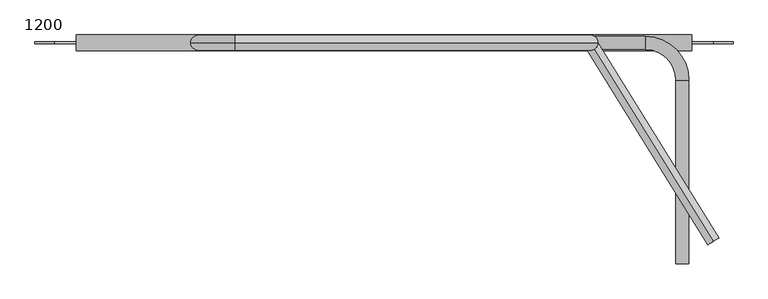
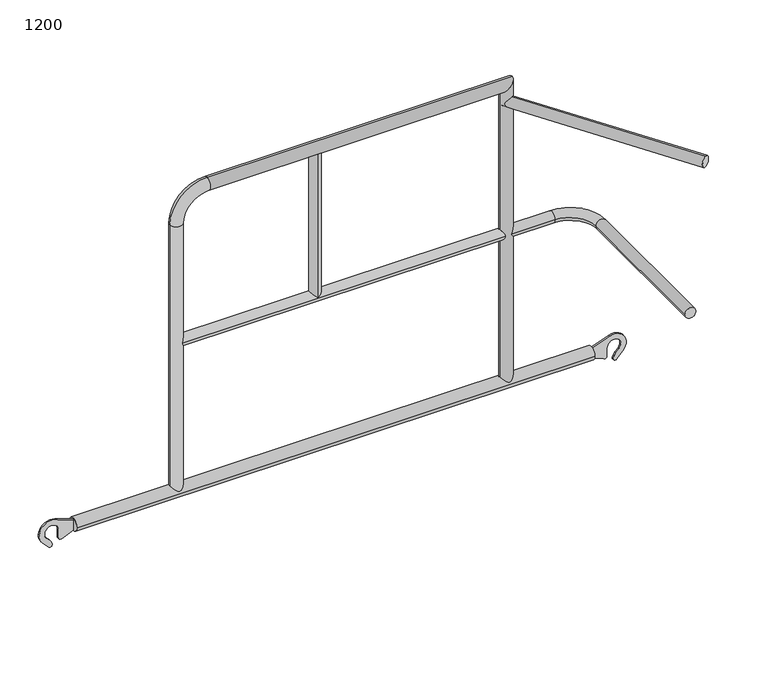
"""IFC4 building model written with IfcOpenShell, lengths in millimetres: proxy geometry, AK_アルミ階段開口部手摺枠_軽 : 1200."""

import ifcopenshell
import ifcopenshell.guid

model = None  # the IFC model being written
_history = None  # IfcOwnerHistory: only IFC2X3 demands one
_inside = {}  # id of a spatial element -> (the spatial element, [elements in it])
_under = {}  # id of a project, library or spatial element -> (it, [spatial elements below it])
_declared = {}  # id of a project -> (the project, [libraries it declares])
_typed = {}  # id of a type object -> (the type object, [elements of that type])
_made_of = {}  # id of a material, layer set ... -> (it, [elements and type objects made of it])


def new_model(schema):
    """Start an empty IFC model of exactly this schema.

    Asked for "IFC4X3", IfcOpenShell would pick the latest addendum, in which some entities
    have other attributes; the version numbers below select the first issue.
    IFC2X3 requires an IfcOwnerHistory on every rooted entity: one is made here for all.
    """
    global model, _history
    if schema == "IFC4X3":
        model = ifcopenshell.file(schema_version=(4, 3, 0, 0))
    else:
        model = ifcopenshell.file(schema=schema)
    _inside.clear()
    _under.clear()
    _declared.clear()
    _typed.clear()
    _made_of.clear()
    _history = None
    if model.schema == "IFC2X3":
        org = make("IfcOrganization", Name="unknown")
        user = make(
            "IfcPersonAndOrganization",
            ThePerson=make("IfcPerson", FamilyName="unknown"),
            TheOrganization=org,
        )
        app = make(
            "IfcApplication",
            ApplicationDeveloper=org,
            Version="unknown",
            ApplicationFullName="unknown",
            ApplicationIdentifier="unknown",
        )
        _history = make(
            "IfcOwnerHistory",
            OwningUser=user,
            OwningApplication=app,
            ChangeAction="ADDED",
            CreationDate=0,
        )
    return model


def make(cls, **values):
    """One entity of the class cls with the attributes given. An attribute that is None is left unset."""
    return model.create_entity(
        cls, **{name: value for name, value in values.items() if value is not None}
    )


def rooted(cls, **values):
    """An entity with a GlobalId (a new one), such as an element, a storey or a relation."""
    return make(cls, GlobalId=ifcopenshell.guid.new(), OwnerHistory=_history, **values)


def si_unit(unit_type, name, prefix=None):
    """IfcSIUnit, for example si_unit("LENGTHUNIT", "METRE", prefix="MILLI")."""
    return make("IfcSIUnit", UnitType=unit_type, Prefix=prefix, Name=name)


def assignment(units):
    """IfcUnitAssignment: the units of a project."""
    return None if units is None else make("IfcUnitAssignment", Units=units)


def point(xyz):
    """IfcCartesianPoint."""
    return None if xyz is None else make("IfcCartesianPoint", Coordinates=xyz)


def direction(xyz):
    """IfcDirection."""
    return None if xyz is None else make("IfcDirection", DirectionRatios=xyz)


def frame(location, z_axis=None, x_axis=None):
    """IfcAxis2Placement3D, a coordinate frame: its origin and axes. An axis left out is left unset."""
    return make(
        "IfcAxis2Placement3D",
        Location=point(location),
        Axis=direction(z_axis),
        RefDirection=direction(x_axis),
    )


def frame_2d(location, x_axis=None):
    """IfcAxis2Placement2D, a coordinate frame in the plane: its origin and x axis."""
    return make(
        "IfcAxis2Placement2D", Location=point(location), RefDirection=direction(x_axis)
    )


def origin():
    """The frame at (0, 0, 0) with its axes left unset."""
    return frame((0.0, 0.0, 0.0))


def place(relative_to, where):
    """IfcLocalPlacement: puts the frame where relative to a parent placement (None: the world)."""
    return make(
        "IfcLocalPlacement", PlacementRelTo=relative_to, RelativePlacement=where
    )


def context(
    kind, dimensions, precision=None, world=None, true_north=None, identifier=None
):
    """IfcGeometricRepresentationContext, for example the 3D "Model" context."""
    return make(
        "IfcGeometricRepresentationContext",
        ContextIdentifier=identifier,
        ContextType=kind,
        CoordinateSpaceDimension=dimensions,
        Precision=precision,
        WorldCoordinateSystem=world,
        TrueNorth=true_north,
    )


def project(units=None, contexts=None):
    """IfcProject with its units and contexts."""
    return rooted(
        "IfcProject",
        Name="project",
        RepresentationContexts=contexts,
        UnitsInContext=assignment(units),
    )


def spatial(cls, under=None, at=None, **own):
    """A site, building, storey or space (cls), placed at a placement, below another one or the project."""
    s = rooted(cls, ObjectPlacement=at, **own)
    if under is not None:
        _under.setdefault(under.id(), (under, []))[1].append(s)
    return s


def polyline(points):
    """IfcPolyline through the points."""
    return make("IfcPolyline", Points=[point(p) for p in points])


def circle_curve(where, radius):
    """IfcCircle in the frame where."""
    return make("IfcCircle", Position=where, Radius=radius)


def ellipse_curve(where, semi_axis1, semi_axis2):
    """IfcEllipse in the frame where."""
    return make(
        "IfcEllipse", Position=where, SemiAxis1=semi_axis1, SemiAxis2=semi_axis2
    )


def trimmed(basis, trim1, trim2, sense, master):
    """IfcTrimmedCurve: the piece of a basis curve between two trims."""
    return make(
        "IfcTrimmedCurve",
        BasisCurve=basis,
        Trim1=trim1,
        Trim2=trim2,
        SenseAgreement=sense,
        MasterRepresentation=master,
    )


def segment(curve, same_sense, transition):
    """IfcCompositeCurveSegment."""
    return make(
        "IfcCompositeCurveSegment",
        Transition=transition,
        SameSense=same_sense,
        ParentCurve=curve,
    )


def composite_curve(segments, self_intersect=None):
    """IfcCompositeCurve: segments joined end to end."""
    return make("IfcCompositeCurve", Segments=segments, SelfIntersect=self_intersect)


def outline(outer, holes=None, kind="AREA"):
    """IfcArbitraryClosedProfileDef: a profile drawn as a closed curve; with holes, ...WithVoids."""
    if holes is None:
        return make("IfcArbitraryClosedProfileDef", ProfileType=kind, OuterCurve=outer)
    return make(
        "IfcArbitraryProfileDefWithVoids",
        ProfileType=kind,
        OuterCurve=outer,
        InnerCurves=holes,
    )


def extrude(swept, where, along, depth):
    """IfcExtrudedAreaSolid: the profile swept, set in the frame where, extruded along a direction by depth."""
    return make(
        "IfcExtrudedAreaSolid",
        SweptArea=swept,
        Position=where,
        ExtrudedDirection=direction(along),
        Depth=depth,
    )


def shape(context_of_items, identifier, shape_type, items):
    """IfcShapeRepresentation: the items that make up one representation, for example the "Body"."""
    return make(
        "IfcShapeRepresentation",
        ContextOfItems=context_of_items,
        RepresentationIdentifier=identifier,
        RepresentationType=shape_type,
        Items=items,
    )


def source(mapping_origin, context_of_items, identifier, shape_type, items):
    """IfcRepresentationMap: a shape defined once, which mapped items show again and again."""
    return make(
        "IfcRepresentationMap",
        MappingOrigin=mapping_origin,
        MappedRepresentation=shape(context_of_items, identifier, shape_type, items),
    )


def transform(
    local_origin,
    x_axis=None,
    y_axis=None,
    z_axis=None,
    scale=None,
    scale2=None,
    scale3=None,
    uniform=True,
):
    """IfcCartesianTransformationOperator3D, or its non-uniform kind. x_axis, y_axis, z_axis: its Axis1, 2, 3."""
    if uniform:
        return make(
            "IfcCartesianTransformationOperator3D",
            Axis1=direction(x_axis),
            Axis2=direction(y_axis),
            LocalOrigin=point(local_origin),
            Scale=scale,
            Axis3=direction(z_axis),
        )
    return make(
        "IfcCartesianTransformationOperator3DnonUniform",
        Axis1=direction(x_axis),
        Axis2=direction(y_axis),
        LocalOrigin=point(local_origin),
        Scale=scale,
        Axis3=direction(z_axis),
        Scale2=scale2,
        Scale3=scale3,
    )


def mapped(mapping_source, mapping_target):
    """IfcMappedItem: shows the shape of a source again, moved by a transform."""
    return make(
        "IfcMappedItem", MappingSource=mapping_source, MappingTarget=mapping_target
    )


def made_of(thing, what):
    """Note that an element or type object is made of a material, layer set ...; save() writes the relation."""
    if what is not None:
        _made_of.setdefault(what.id(), (what, []))[1].append(thing)
    return thing


def element(
    cls,
    number,
    at=None,
    inside=None,
    cuts=None,
    type_object=None,
    material=None,
    context=None,
    identifier="Body",
    shape_type=None,
    held_by="IfcProductDefinitionShape",
    body=None,
    shapes=None,
    **own,
):
    """One element of the class cls, such as IfcWall. Its Tag is "e" and its number.

    at: its placement. inside: the storey or other place that contains it. cuts: it is an
    opening in that element (IfcRelVoidsElement). A single representation is given by context,
    identifier, shape_type and body (its items); several are given by shapes. held_by: the class
    of the entity that holds the representations. save() writes the other relations.
    """
    e = rooted(cls, Tag="e%d" % number, ObjectPlacement=at, **own)
    if body is not None:
        shapes = [shape(context, identifier, shape_type, body)]
    if shapes is not None:
        e.Representation = make(held_by, Representations=shapes)
    if inside is not None:
        _inside.setdefault(inside.id(), (inside, []))[1].append(e)
    if cuts is not None:
        rooted(
            "IfcRelVoidsElement", RelatingBuildingElement=cuts, RelatedOpeningElement=e
        )
    if type_object is not None:
        _typed.setdefault(type_object.id(), (type_object, []))[1].append(e)
    return made_of(e, material)


def aggregate(whole, parts):
    """IfcRelAggregates: a whole, such as a stair, and the parts it consists of."""
    return rooted("IfcRelAggregates", RelatingObject=whole, RelatedObjects=parts)


def save(model, path):
    """Write the relations noted so far, then the file.

    IfcRelAggregates (storeys below a building ...), IfcRelContainedInSpatialStructure (elements
    in a storey), IfcRelDefinesByType, IfcRelAssociatesMaterial and IfcRelDeclares: one each for
    every whole, place, type object, material and project.
    """
    for whole, parts in _under.values():
        aggregate(whole, parts)
    for where, things in _inside.values():
        rooted(
            "IfcRelContainedInSpatialStructure",
            RelatedElements=things,
            RelatingStructure=where,
        )
    for kind, things in _typed.values():
        rooted("IfcRelDefinesByType", RelatedObjects=things, RelatingType=kind)
    for what, things in _made_of.values():
        rooted("IfcRelAssociatesMaterial", RelatedObjects=things, RelatingMaterial=what)
    for by, libraries in _declared.values():
        rooted("IfcRelDeclares", RelatingContext=by, RelatedDefinitions=libraries)
    model.write(path)


def plane_surface(at):
    """IfcPlane: the flat surface through the origin of the frame at, square to its z axis."""
    return make("IfcPlane", Position=at)


def cylinder_surface(at, radius):
    """IfcCylindricalSurface: all points at the distance radius from the z axis of the frame at."""
    return make("IfcCylindricalSurface", Position=at, Radius=radius)


def revolved_surface(curve, axis_point, axis_direction):
    """IfcSurfaceOfRevolution: the curve turned about the line through axis_point along axis_direction."""
    return make(
        "IfcSurfaceOfRevolution",
        SweptCurve=make("IfcArbitraryOpenProfileDef", ProfileType="CURVE", Curve=curve),
        AxisPosition=make("IfcAxis1Placement", Location=point(axis_point), Axis=direction(axis_direction)),
    )


def advanced_brep(points, edges, surfaces, faces):
    """IfcAdvancedBrep: a solid bounded by faces that lie on surfaces and meet in shared edges.

    An edge is (start, end): straight between two places in points (the first is 0);
    or (start, end, curve); or (start, end, curve, False) where it runs against its curve.
    A face is (place in surfaces, loops), or (place, loops, False) where it looks against
    its surface's normal. A loop lists edges by number (the first is 1), with a minus sign
    where the edge is run from its end to its start. The first loop is the outer one.
    """
    corners = [point(p) for p in points]
    vertices = [make("IfcVertexPoint", VertexGeometry=c) for c in corners]
    made = []
    for start, end, *more in edges:
        made.append(
            make(
                "IfcEdgeCurve",
                EdgeStart=vertices[start],
                EdgeEnd=vertices[end],
                EdgeGeometry=more[0] if more else make("IfcPolyline", Points=[corners[start], corners[end]]),
                SameSense=more[1] if len(more) > 1 else True,
            )
        )
    hull = []
    for where, loops, *sense in faces:
        bounds = []
        for j, loop in enumerate(loops):
            ring = [make("IfcOrientedEdge", EdgeElement=made[abs(k) - 1], Orientation=k > 0) for k in loop]
            bounds.append(
                make(
                    "IfcFaceOuterBound" if j == 0 else "IfcFaceBound",
                    Bound=make("IfcEdgeLoop", EdgeList=ring),
                    Orientation=True,
                )
            )
        hull.append(make("IfcAdvancedFace", Bounds=bounds, FaceSurface=surfaces[where], SameSense=sense[0] if sense else True))
    return make("IfcAdvancedBrep", Outer=make("IfcClosedShell", CfsFaces=hull))


def proxy_1200_2f35732d(model_context):
    return source(origin(), model_context, "Body", "SolidModel", [
        extrude(outline(composite_curve([segment(trimmed(circle_curve(frame_2d((129.9999973, 0.0)), 20.9999991), [point((108.9999982, 0.0))], [point((150.9999964, 0.0))], False, "CARTESIAN"), True, "CONTINUOUS"), segment(trimmed(circle_curve(frame_2d((129.9999973, 0.0)), 20.9999991), [point((150.9999964, 0.0))], [point((108.9999982, 0.0))], False, "CARTESIAN"), True, "CONTINUOUS")], self_intersect=False)), frame((-828.6495353, 0.0, 0.0), z_axis=(1.0, 0.0, 0.0), x_axis=(0.0, 1.0, 0.0)), (0.0, 0.0, 1.0), 1656.5062876),
        extrude(outline(composite_curve([segment(trimmed(circle_curve(frame_2d((0.0, -900.0)), 39.3657736), [point((37.2515813, -887.2727135))], [point((-27.0096899, -928.6381002))], False, "CARTESIAN"), True, "CONTINUOUS"), segment(polyline([(-27.0096899, -928.6381002), (-47.5298739, -909.2847283)]), True, "CONTINUOUS"), segment(trimmed(circle_curve(frame_2d((-42.9415588, -904.4197843)), 6.687325), [point((-47.5298739, -909.2847283))], [point((-41.6218508, -897.8639712))], False, "CARTESIAN"), True, "CONTINUOUS"), segment(trimmed(circle_curve(frame_2d((-47.9565694, -929.3324726)), 32.0997701), [point((-41.6218508, -897.8639712))], [point((-25.9322382, -905.9802977))], False, "CARTESIAN"), True, "CONTINUOUS"), segment(polyline([(-25.9322382, -905.9802977), (-15.1929506, -916.1089314)]), True, "CONTINUOUS"), segment(trimmed(circle_curve(frame_2d((0.0, -900.0)), 22.1432477), [point((-15.1929506, -916.1089314))], [point((0.0, -877.8567523))], True, "CARTESIAN"), True, "CONTINUOUS"), segment(polyline([(0.0, -877.8567523), (-26.3854776, -877.8567523)]), True, "CONTINUOUS"), segment(trimmed(circle_curve(frame_2d((-26.3854776, -870.4603419)), 7.3964104), [point((-26.3854776, -877.8567523))], [point((-33.2281294, -867.6523173))], False, "CARTESIAN"), True, "CONTINUOUS"), segment(polyline([(-33.2281294, -867.6523173), (-17.222526, -828.6495353), (17.222526, -828.6495353), (37.2515813, -887.2727135)]), True, "CONTINUOUS")], self_intersect=False)), frame((0.0, 127.4999973, 0.0), z_axis=(0.0, 1.0, 0.0), x_axis=(0.0, 0.0, 1.0)), (0.0, 0.0, 1.0), 5.0),
        extrude(outline(composite_curve([segment(polyline([(37.2515813, 886.4799305), (17.222526, 827.8567523), (-17.222526, 827.8567523), (-33.2281294, 866.8595344)]), True, "CONTINUOUS"), segment(trimmed(circle_curve(frame_2d((-26.3854776, 869.667559)), 7.3964104), [point((-33.2281294, 866.8595344))], [point((-26.3854776, 877.0639694))], False, "CARTESIAN"), True, "CONTINUOUS"), segment(polyline([(-26.3854776, 877.0639694), (0.0, 877.0639694)]), True, "CONTINUOUS"), segment(trimmed(circle_curve(frame_2d((0.0, 899.2072171)), 22.1432477), [point((0.0, 877.0639694))], [point((-15.1929506, 915.3161484))], True, "CARTESIAN"), True, "CONTINUOUS"), segment(polyline([(-15.1929506, 915.3161484), (-25.9322382, 905.1875147)]), True, "CONTINUOUS"), segment(trimmed(circle_curve(frame_2d((-47.9565694, 928.5396897)), 32.0997701), [point((-25.9322382, 905.1875147))], [point((-41.6218508, 897.0711882))], False, "CARTESIAN"), True, "CONTINUOUS"), segment(trimmed(circle_curve(frame_2d((-42.9415588, 903.6270014)), 6.687325), [point((-41.6218508, 897.0711882))], [point((-47.5298739, 908.4919453))], False, "CARTESIAN"), True, "CONTINUOUS"), segment(polyline([(-47.5298739, 908.4919453), (-27.0096899, 927.8453173)]), True, "CONTINUOUS"), segment(trimmed(circle_curve(frame_2d((0.0, 899.2072171)), 39.3657736), [point((-27.0096899, 927.8453173))], [point((37.2515813, 886.4799305))], False, "CARTESIAN"), True, "CONTINUOUS")], self_intersect=False)), frame((0.0, 127.4999973, 0.0), z_axis=(0.0, 1.0, 0.0), x_axis=(0.0, 0.0, 1.0)), (0.0, 0.0, 1.0), 5.0),
        extrude(outline(composite_curve([segment(trimmed(circle_curve(frame_2d((40.2547608, 0.0)), 17.5), [point((40.2547608, -17.5))], [point((40.2547608, 17.5))], False, "CARTESIAN"), True, "CONTINUOUS"), segment(trimmed(circle_curve(frame_2d((40.2547608, 0.0)), 17.5), [point((40.2547608, 17.5))], [point((40.2547608, -17.5))], False, "CARTESIAN"), True, "CONTINUOUS")], self_intersect=False)), frame((919.4334977, -382.862194, 950.3514397), z_axis=(-0.5271313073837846, 0.8497838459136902, 0.0), x_axis=(-0.8497838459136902, -0.5271313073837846, 0.0)), (0.0, 0.0, 1.0), 633.5088148),
        advanced_brep(
        [(557.0003165, 147.1498454, 504.4748982), (557.0003165, 112.1498454, 504.4748982), (702.0003165, 147.1498454, 504.4748982), (702.0003165, 112.1498454, 504.4748982), (784.5000069, 29.650155, 504.4748982), (819.5000069, 29.650155, 504.4748982), (819.5000069, -465.0001537, 504.4748982), (784.5000069, -465.0001537, 504.4748982)],
        [
            (0, 1, circle_curve(frame((557.0003165, 129.6498454, 504.4748982), z_axis=(-1.0, 0.0, 0.0), x_axis=(0.0, -1.0, 0.0)), 17.5)),
            (1, 0, circle_curve(frame((557.0003165, 129.6498454, 504.4748982), z_axis=(-1.0, 0.0, 0.0), x_axis=(0.0, -1.0, 0.0)), 17.5)),
            (0, 2),
            (2, 3, circle_curve(frame((702.0003165, 129.6498454, 504.4748982), z_axis=(-1.0, 0.0, 0.0), x_axis=(0.0, -1.0, 0.0)), 17.5)),
            (3, 1),
            (3, 2, circle_curve(frame((702.0003165, 129.6498454, 504.4748982), z_axis=(-1.0, 0.0, 0.0), x_axis=(0.0, -1.0, 0.0)), 17.5)),
            (4, 3, circle_curve(frame((702.0003165, 29.650155, 504.4748982), z_axis=(0.0, 0.0, 1.0), x_axis=(0.0, 1.0, 0.0)), 82.4996904)),
            (2, 5, circle_curve(frame((702.0003165, 29.650155, 504.4748982), z_axis=(0.0, 0.0, -1.0), x_axis=(0.0, 1.0, 0.0)), 117.4996904)),
            (5, 4, circle_curve(frame((802.0000069, 29.650155, 504.4748982), z_axis=(0.0, 1.0, 0.0), x_axis=(-1.0, 0.0, 0.0)), 17.5)),
            (4, 5, circle_curve(frame((802.0000069, 29.650155, 504.4748982), z_axis=(0.0, 1.0, 0.0), x_axis=(-1.0, 0.0, 0.0)), 17.5)),
            (6, 7, circle_curve(frame((802.0000069, -465.0001537, 504.4748982), z_axis=(0.0, -1.0, 0.0), x_axis=(-1.0, 0.0, 0.0)), 17.5)),
            (7, 6, circle_curve(frame((802.0000069, -465.0001537, 504.4748982), z_axis=(0.0, -1.0, 0.0), x_axis=(-1.0, 0.0, 0.0)), 17.5)),
            (5, 6),
            (7, 4),
        ],
        [
            plane_surface(frame((557.0003165, 129.6498454, 0.0), z_axis=(-1.0, 0.0, 0.0), x_axis=(0.0, 0.0, 1.0))),
            cylinder_surface(frame((557.0003165, 129.6498454, 504.4748982), z_axis=(-1.0, 0.0, 0.0), x_axis=(0.0, -1.0, 0.0)), 17.5),
            revolved_surface(trimmed(ellipse_curve(frame((702.0003165, 129.6498454, 504.4748982), z_axis=(-1.0, 0.0, 0.0), x_axis=(0.0, -1.0, 0.0)), 17.5, 17.5), [point((702.0003165, 147.1498454, 504.4748982))], [point((702.0003165, 112.1498454, 504.4748982))], True, "CARTESIAN"), (702.0003165, 29.650155, 0.0), (0.0, 0.0, -1.0)),
            revolved_surface(trimmed(ellipse_curve(frame((702.0003165, 129.6498454, 504.4748982), z_axis=(-1.0, 0.0, 0.0), x_axis=(0.0, -1.0, 0.0)), 17.5, 17.5), [point((702.0003165, 112.1498454, 504.4748982))], [point((702.0003165, 147.1498454, 504.4748982))], True, "CARTESIAN"), (702.0003165, 29.650155, 0.0), (0.0, 0.0, -1.0)),
            plane_surface(frame((802.0000069, -465.0001537, 0.0), z_axis=(0.0, -1.0, 0.0), x_axis=(0.0, 0.0, 1.0))),
            cylinder_surface(frame((802.0000069, 29.650155, 504.4748982), z_axis=(0.0, 1.0, 0.0), x_axis=(-1.0, 0.0, 0.0)), 17.5),
        ],
        [
            (0, [[1, 2]]),
            (1, [[-1, 3, 4, 5]]),
            (1, [[-2, -5, 6, -3]]),
            (2, [[7, -4, 8, 9]]),
            (3, [[-8, -6, -7, 10]]),
            (4, [[11, 12]]),
            (5, [[-9, 13, -12, 14]]),
            (5, [[-10, -14, -11, -13]]),
        ],
    ),
        advanced_brep(
        [(-520.0, 129.9999973, 0.0), (-480.0, 129.9999973, 0.0), (-520.0, 129.9999973, 903.35), (-480.0, 129.9999973, 903.35), (-400.0, 129.9999973, 983.35), (-400.0, 129.9999973, 1023.35), (575.0, 129.9999973, 1023.35), (535.0, 129.9999973, 983.35), (575.0, 129.9999973, 0.0), (535.0, 129.9999973, 0.0)],
        [
            (0, 1, circle_curve(frame((-500.0, 129.9999973, 0.0), z_axis=(0.0, 0.0, -1.0), x_axis=(1.0, 0.0, 0.0)), 20.0)),
            (1, 0, circle_curve(frame((-500.0, 129.9999973, 0.0), z_axis=(0.0, 0.0, -1.0), x_axis=(1.0, 0.0, 0.0)), 20.0)),
            (0, 2),
            (2, 3, circle_curve(frame((-500.0, 129.9999973, 903.35), z_axis=(0.0, 0.0, -1.0), x_axis=(1.0, 0.0, 0.0)), 20.0)),
            (3, 1),
            (3, 2, circle_curve(frame((-500.0, 129.9999973, 903.35), z_axis=(0.0, 0.0, -1.0), x_axis=(1.0, 0.0, 0.0)), 20.0)),
            (4, 5, circle_curve(frame((-400.0, 129.9999973, 1003.35), z_axis=(1.0, 0.0, 0.0), x_axis=(0.0, 0.0, -1.0)), 20.0)),
            (5, 6),
            (6, 7, ellipse_curve(frame((555.0, 129.9999973, 1003.35), z_axis=(-0.7071067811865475, 0.0, 0.7071067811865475), x_axis=(-0.7071067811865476, 0.0, -0.7071067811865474)), 28.2842712, 20.0)),
            (7, 4),
            (5, 4, circle_curve(frame((-400.0, 129.9999973, 1003.35), z_axis=(1.0, 0.0, 0.0), x_axis=(0.0, 0.0, -1.0)), 20.0)),
            (7, 6, ellipse_curve(frame((555.0, 129.9999973, 1003.35), z_axis=(-0.7071067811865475, 0.0, 0.7071067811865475), x_axis=(-0.7071067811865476, 0.0, -0.7071067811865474)), 28.2842712, 20.0)),
            (8, 9, circle_curve(frame((555.0, 129.9999973, 0.0), z_axis=(0.0, 0.0, -1.0), x_axis=(-1.0, 0.0, 0.0)), 20.0)),
            (9, 8, circle_curve(frame((555.0, 129.9999973, 0.0), z_axis=(0.0, 0.0, -1.0), x_axis=(-1.0, 0.0, 0.0)), 20.0)),
            (6, 8),
            (9, 7),
            (4, 3, circle_curve(frame((-400.0, 129.9999973, 903.35), z_axis=(0.0, -1.0, 0.0), x_axis=(-1.0, 0.0, 0.0)), 80.0)),
            (2, 5, circle_curve(frame((-400.0, 129.9999973, 903.35), z_axis=(0.0, 1.0, 0.0), x_axis=(-1.0, 0.0, 0.0)), 120.0)),
        ],
        [
            plane_surface(frame((-500.0, 129.9999973, 0.0), z_axis=(0.0, 0.0, -1.0), x_axis=(0.0, -1.0, 0.0))),
            cylinder_surface(frame((-500.0, 129.9999973, 0.0), z_axis=(0.0, 0.0, -1.0), x_axis=(1.0, 0.0, 0.0)), 20.0),
            cylinder_surface(frame((-400.0, 129.9999973, 1003.35), z_axis=(-1.0, 0.0, 0.0), x_axis=(0.0, 0.0, -1.0)), 20.0),
            plane_surface(frame((555.0, 129.9999973, 0.0), z_axis=(0.0, 0.0, -1.0), x_axis=(0.0, -1.0, 0.0))),
            cylinder_surface(frame((555.0, 129.9999973, 1003.35), z_axis=(0.0, 0.0, 1.0), x_axis=(-1.0, 0.0, 0.0)), 20.0),
            revolved_surface(trimmed(ellipse_curve(frame((-500.0, 129.9999973, 903.35), z_axis=(0.0, 0.0, -1.0), x_axis=(1.0, 0.0, 0.0)), 20.0, 20.0), [point((-520.0, 129.9999973, 903.35))], [point((-480.0, 129.9999973, 903.35))], True, "CARTESIAN"), (-400.0, 129.9999973, 903.35), (0.0, 1.0, 0.0)),
            revolved_surface(trimmed(ellipse_curve(frame((-500.0, 129.9999973, 903.35), z_axis=(0.0, 0.0, -1.0), x_axis=(1.0, 0.0, 0.0)), 20.0, 20.0), [point((-480.0, 129.9999973, 903.35))], [point((-520.0, 129.9999973, 903.35))], True, "CARTESIAN"), (-400.0, 129.9999973, 903.35), (0.0, 1.0, 0.0)),
        ],
        [
            (0, [[1, 2]]),
            (1, [[-1, 3, 4, 5]]),
            (1, [[-2, -5, 6, -3]]),
            (2, [[7, 8, 9, 10]]),
            (2, [[11, -10, 12, -8]]),
            (3, [[13, 14]]),
            (4, [[-9, 15, -14, 16]]),
            (4, [[-12, -16, -13, -15]]),
            (5, [[17, -4, 18, -7]]),
            (6, [[-18, -6, -17, -11]]),
        ],
    ),
        extrude(outline(composite_curve([segment(trimmed(circle_curve(frame_2d((129.9999973, 503.3494099)), 17.5), [point((112.4999973, 503.3494099))], [point((147.4999973, 503.3494099))], False, "CARTESIAN"), True, "CONTINUOUS"), segment(trimmed(circle_curve(frame_2d((129.9999973, 503.3494099)), 17.5), [point((147.4999973, 503.3494099))], [point((112.4999973, 503.3494099))], False, "CARTESIAN"), True, "CONTINUOUS")], self_intersect=False)), frame((-500.0, 0.0, 0.0), z_axis=(1.0, 0.0, 0.0), x_axis=(0.0, 1.0, 0.0)), (0.0, 0.0, 1.0), 1055.0),
        extrude(outline(composite_curve([segment(trimmed(circle_curve(frame_2d((-55.0, 129.9999973)), 17.5), [point((-55.0, 112.4999973))], [point((-55.0, 147.4999973))], False, "CARTESIAN"), True, "CONTINUOUS"), segment(trimmed(circle_curve(frame_2d((-55.0, 129.9999973)), 17.5), [point((-55.0, 147.4999973))], [point((-55.0, 112.4999973))], False, "CARTESIAN"), True, "CONTINUOUS")], self_intersect=False)), frame((0.0, 0.0, 504.4748982), z_axis=(0.0, 0.0, 1.0), x_axis=(1.0, 0.0, 0.0)), (0.0, 0.0, 1.0), 500.0),
    ])


if __name__ == "__main__":
    model = new_model("IFC4")
    model_context = context("Model", 3, world=origin())
    ifc_project = project(units=[si_unit("LENGTHUNIT", "METRE", prefix="MILLI")], contexts=[model_context])
    site = spatial("IfcSite", under=ifc_project)
    building = spatial("IfcBuilding", under=site)
    placement = place(None, origin())
    proxy_1200_shape = proxy_1200_2f35732d(model_context)
    element("IfcBuildingElementProxy", 1, Name="AK_アルミ階段開口部手摺枠_軽 : 1200", ObjectType="AK_アルミ階段開口部手摺枠_軽 : 1200", at=placement, inside=building, context=model_context, shape_type="MappedRepresentation", body=[
        mapped(proxy_1200_shape, transform((0.0, 0.0, 0.0), x_axis=(1.0, 0.0, 0.0), y_axis=(0.0, 1.0, 0.0), z_axis=(0.0, 0.0, 1.0))),
    ])
    save(model, "model.ifc")
